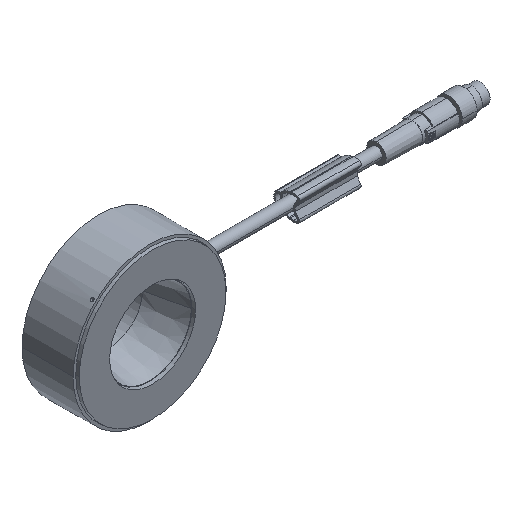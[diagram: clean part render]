
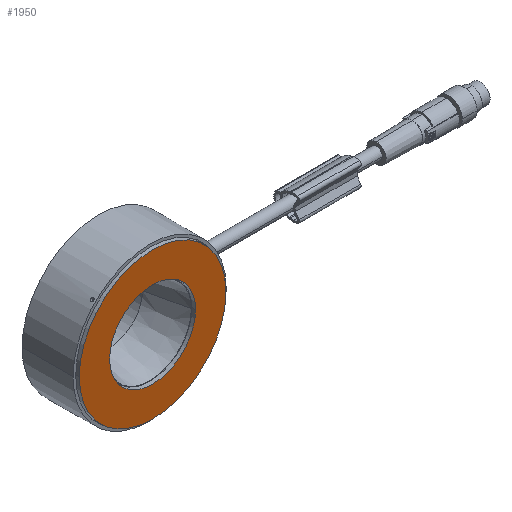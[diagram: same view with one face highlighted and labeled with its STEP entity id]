
A CAD part, isometric view. The second image highlights one B-rep face of the part: STEP entity #1950.
In plain terms, the highlighted planar face has unit normal (0, -1, 0).
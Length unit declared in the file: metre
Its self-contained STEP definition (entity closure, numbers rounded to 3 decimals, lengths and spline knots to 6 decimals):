
#1950=ADVANCED_FACE('0:6976',(#3381,#3382),#3383,.T.);
#3381=FACE_OUTER_BOUND('',#4064,.T.);
#3382=FACE_BOUND('',#4065,.T.);
#3383=PLANE('',#4066);
#4064=EDGE_LOOP('',(#5173,#5174));
#4065=EDGE_LOOP('',(#5175,#5176));
#4066=AXIS2_PLACEMENT_3D('',#5177,#5178,#5179);
#5173=ORIENTED_EDGE('',*,*,#7024,.F.);
#5174=ORIENTED_EDGE('',*,*,#7044,.F.);
#5175=ORIENTED_EDGE('',*,*,#7028,.F.);
#5176=ORIENTED_EDGE('',*,*,#7043,.F.);
#5177=CARTESIAN_POINT('',(-0.0122,-0.0201,0.0));
#5178=DIRECTION('',(0.,-1.0,0.0));
#5179=DIRECTION('',(-1.0,0.,0.0));
#7024=EDGE_CURVE('0:7969',#7946,#7942,#7948,.T.);
#7028=EDGE_CURVE('0:7966',#7954,#7950,#7956,.T.);
#7043=EDGE_CURVE('0:7966',#7950,#7954,#7976,.T.);
#7044=EDGE_CURVE('0:7969',#7942,#7946,#7977,.T.);
#7942=VERTEX_POINT('',#8324);
#7946=VERTEX_POINT('',#8329);
#7948=CIRCLE('',#8332,0.0273);
#7950=VERTEX_POINT('',#8334);
#7954=VERTEX_POINT('',#8339);
#7956=CIRCLE('',#8342,0.016);
#7976=CIRCLE('',#8365,0.016);
#7977=CIRCLE('',#8366,0.0273);
#8324=CARTESIAN_POINT('',(0.0151,-0.0201,0.));
#8329=CARTESIAN_POINT('',(-0.0395,-0.0201,0.));
#8332=AXIS2_PLACEMENT_3D('',#8561,#8562,#8563);
#8334=CARTESIAN_POINT('',(-0.0282,-0.0201,0.));
#8339=CARTESIAN_POINT('',(0.0038,-0.0201,0.));
#8342=AXIS2_PLACEMENT_3D('',#8569,#8570,#8571);
#8365=AXIS2_PLACEMENT_3D('',#8608,#8609,#8610);
#8366=AXIS2_PLACEMENT_3D('',#8611,#8612,#8613);
#8561=CARTESIAN_POINT('',(-0.0122,-0.0201,0.0));
#8562=DIRECTION('',(0.,1.0,0.0));
#8563=DIRECTION('',(1.0,0.,0.0));
#8569=CARTESIAN_POINT('',(-0.0122,-0.0201,0.0));
#8570=DIRECTION('',(0.,-1.0,0.0));
#8571=DIRECTION('',(-1.0,0.,0.0));
#8608=CARTESIAN_POINT('',(-0.0122,-0.0201,0.0));
#8609=DIRECTION('',(0.,-1.0,0.0));
#8610=DIRECTION('',(-1.0,0.,0.0));
#8611=CARTESIAN_POINT('',(-0.0122,-0.0201,0.0));
#8612=DIRECTION('',(0.,1.0,0.0));
#8613=DIRECTION('',(1.0,0.,0.0));
